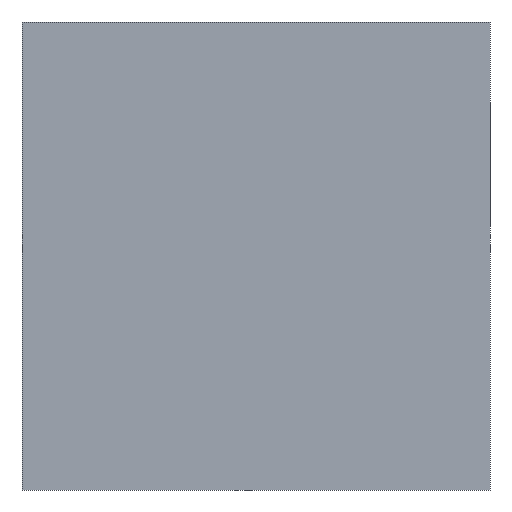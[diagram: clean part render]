
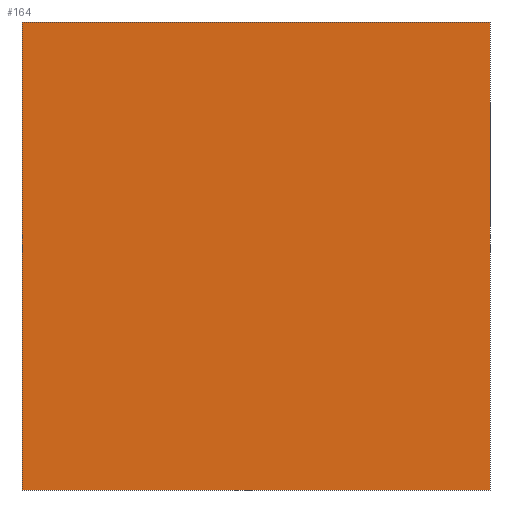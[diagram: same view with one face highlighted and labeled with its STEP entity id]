
A CAD part, front view. The second image highlights one B-rep face of the part: STEP entity #164.
In plain terms, the highlighted planar face has unit normal (0, -1, 0).
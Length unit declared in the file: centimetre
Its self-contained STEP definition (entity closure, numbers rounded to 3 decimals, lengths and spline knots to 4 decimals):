
#1 = CARTESIAN_POINT ( 'NONE',  ( 0., 0., 1000. ) ) ;
#4 = VECTOR ( 'NONE', #424, 100. ) ;
#32 = VERTEX_POINT ( 'NONE', #438 ) ;
#34 = AXIS2_PLACEMENT_3D ( 'NONE', #141, #58, #467 ) ;
#35 = DIRECTION ( 'NONE',  ( 1., 0., 0. ) ) ;
#46 = VECTOR ( 'NONE', #421, 100. ) ;
#47 = ORIENTED_EDGE ( 'NONE', *, *, #236, .T. ) ;
#55 = LINE ( 'NONE', #492, #331 ) ;
#58 = DIRECTION ( 'NONE',  ( 0., 1., 0. ) ) ;
#79 = ORIENTED_EDGE ( 'NONE', *, *, #285, .F. ) ;
#81 = VERTEX_POINT ( 'NONE', #1 ) ;
#99 = CARTESIAN_POINT ( 'NONE',  ( 0., 0., 0. ) ) ;
#108 = EDGE_CURVE ( 'NONE', #316, #32, #239, .T. ) ;
#141 = CARTESIAN_POINT ( 'NONE',  ( 0., 0., 1000. ) ) ;
#148 = VERTEX_POINT ( 'NONE', #286 ) ;
#160 = VECTOR ( 'NONE', #35, 100. ) ;
#164 = ADVANCED_FACE ( 'NONE', ( #182 ), #375, .F. ) ;
#182 = FACE_OUTER_BOUND ( 'NONE', #297, .T. ) ;
#236 = EDGE_CURVE ( 'NONE', #81, #316, #503, .T. ) ;
#239 = LINE ( 'NONE', #398, #160 ) ;
#255 = ORIENTED_EDGE ( 'NONE', *, *, #108, .T. ) ;
#269 = ORIENTED_EDGE ( 'NONE', *, *, #345, .F. ) ;
#274 = CARTESIAN_POINT ( 'NONE',  ( 0., 0., 1000. ) ) ;
#285 = EDGE_CURVE ( 'NONE', #148, #32, #55, .T. ) ;
#286 = CARTESIAN_POINT ( 'NONE',  ( 1000., 0., 1000. ) ) ;
#297 = EDGE_LOOP ( 'NONE', ( #255, #79, #269, #47 ) ) ;
#306 = DIRECTION ( 'NONE',  ( 0., 0., -1. ) ) ;
#316 = VERTEX_POINT ( 'NONE', #99 ) ;
#331 = VECTOR ( 'NONE', #306, 100. ) ;
#345 = EDGE_CURVE ( 'NONE', #81, #148, #461, .T. ) ;
#375 = PLANE ( 'NONE',  #34 ) ;
#398 = CARTESIAN_POINT ( 'NONE',  ( 0., 0., 0. ) ) ;
#421 = DIRECTION ( 'NONE',  ( 1., 0., 0. ) ) ;
#424 = DIRECTION ( 'NONE',  ( 0., 0., -1. ) ) ;
#427 = CARTESIAN_POINT ( 'NONE',  ( 0., 0., 1000. ) ) ;
#438 = CARTESIAN_POINT ( 'NONE',  ( 1000., 0., 0. ) ) ;
#461 = LINE ( 'NONE', #274, #46 ) ;
#467 = DIRECTION ( 'NONE',  ( 0., 0., 1. ) ) ;
#492 = CARTESIAN_POINT ( 'NONE',  ( 1000., 0., 1000. ) ) ;
#503 = LINE ( 'NONE', #427, #4 ) ;
